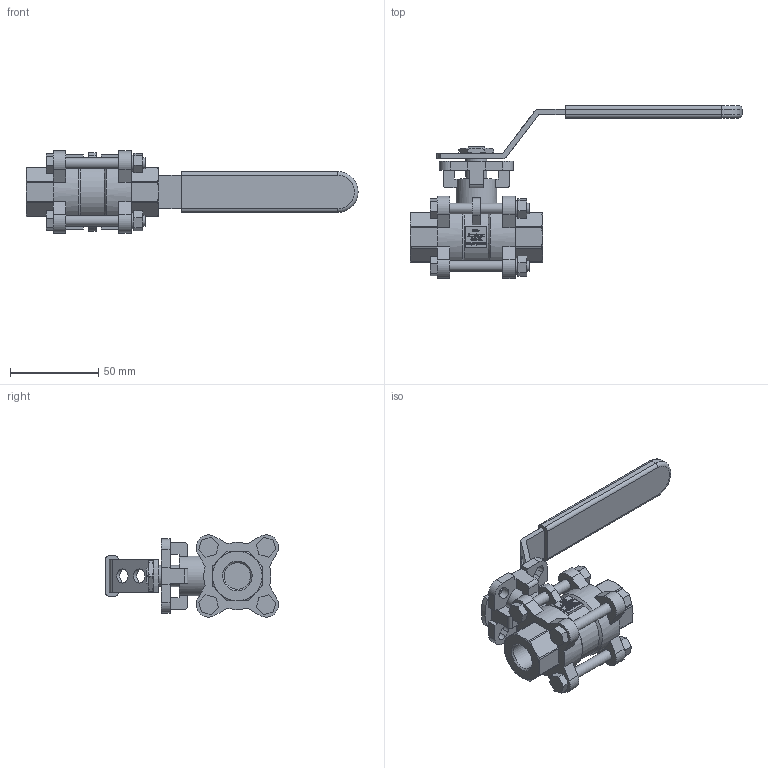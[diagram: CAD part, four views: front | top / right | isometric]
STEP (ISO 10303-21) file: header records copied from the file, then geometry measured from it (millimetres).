
FILE_DESCRIPTION((''),'2;1');
FILE_NAME('K:\Inventor\1 Artikel\11) Muffen-Kugelhähne\11a) manuell\Econosto\470-VA, 7444ISO\470-VA, G0,375\470-VA, G0,375, 3D\470-VA, G0,375, PN68, HH, 3D.stp','2019-10-24T09:35:08',('claudia'),(''),'Autodesk Inventor 2013','Autodesk Inventor 2013','');
FILE_SCHEMA(('AUTOMOTIVE_DESIGN { 1 0 10303 214 1 1 1 1 }'));
Length unit declared in the file: millimetre
Products named in the file (1): Bauteil3
Bounding box: 187.83 x 97.86 x 46.53 mm (x, y, z)
Volume: 115443.9 mm3; surface area: 35057.3 mm2
Topology: 1 solids, 1 shells, 1445 faces, 3910 edges, 2596 vertices
Faces by surface type: plane 826, bspline 505, cylinder 80, cone 32, torus 2
Full cylindrical faces by diameter (mm): 6 x8, 6.5 x2, 8 x2, 9 x4, 12 x1, 14.95 x2, 23 x1, 26 x1, 38 x2
Entity records: 49439 total; most frequent: CARTESIAN_POINT 16183, ORIENTED_EDGE 7752, DIRECTION 4911, EDGE_CURVE 3876, VERTEX_POINT 2587, VECTOR 2571, LINE 2571, EDGE_LOOP 1631
